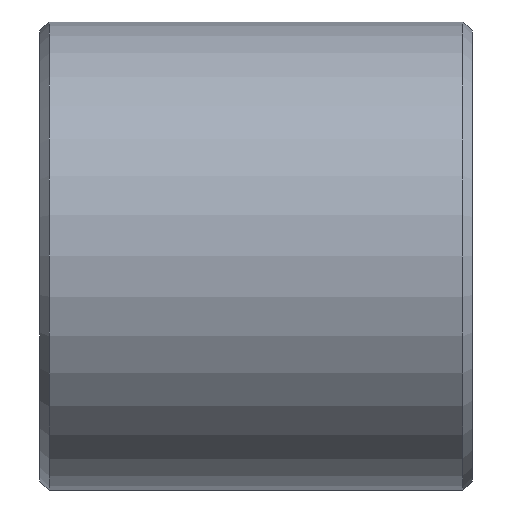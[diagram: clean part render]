
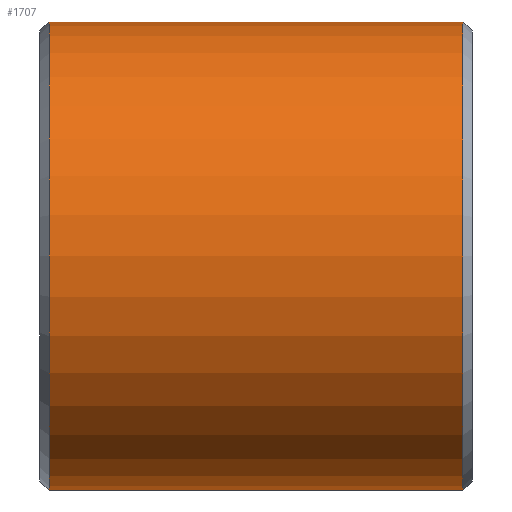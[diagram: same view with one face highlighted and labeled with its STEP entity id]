
A CAD part, front view. The second image highlights one B-rep face of the part: STEP entity #1707.
In plain terms, the highlighted cylindrical face has radius 13 mm (diameter 26 mm), a partial arc.
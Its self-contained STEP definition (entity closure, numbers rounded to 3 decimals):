
#84=DIRECTION('',(1.,0.,0.));
#85=VECTOR('',#84,23.);
#86=CARTESIAN_POINT('',(-11.5,0.,-13.));
#87=LINE('',#86,#85);
#129=CARTESIAN_POINT('',(11.5,0.,0.));
#130=DIRECTION('',(1.,0.,0.));
#131=DIRECTION('',(0.,0.,1.));
#132=AXIS2_PLACEMENT_3D('',#129,#130,#131);
#134=CARTESIAN_POINT('',(-11.5,0.,0.));
#135=DIRECTION('',(-1.,0.,0.));
#136=DIRECTION('',(0.,0.,-1.));
#137=AXIS2_PLACEMENT_3D('',#134,#135,#136);
#139=DIRECTION('',(1.,0.,0.));
#140=VECTOR('',#139,23.);
#141=CARTESIAN_POINT('',(-11.5,0.,
13.));
#142=LINE('',#141,#140);
#1574=CARTESIAN_POINT('',(11.5,0.,13.));
#1575=CARTESIAN_POINT('',(11.5,0.,-13.));
#1576=VERTEX_POINT('',#1574);
#1577=VERTEX_POINT('',#1575);
#1582=CARTESIAN_POINT('',(-11.5,0.,-13.));
#1583=CARTESIAN_POINT('',(-11.5,0.,13.));
#1584=VERTEX_POINT('',#1582);
#1585=VERTEX_POINT('',#1583);
#1696=CARTESIAN_POINT('',(-12.,0.,0.));
#1697=DIRECTION('',(1.,0.,0.));
#1698=DIRECTION('',(0.,0.,-1.));
#1699=AXIS2_PLACEMENT_3D('',#1696,#1697,#1698);
#1700=CYLINDRICAL_SURFACE('',#1699,13.);
#1701=ORIENTED_EDGE('',*,*,#1690,.T.);
#1702=ORIENTED_EDGE('',*,*,#1644,.F.);
#1703=ORIENTED_EDGE('',*,*,#1614,.T.);
#1704=ORIENTED_EDGE('',*,*,#1641,.T.);
#1705=EDGE_LOOP('',(#1701,#1702,#1703,#1704));
#1706=FACE_OUTER_BOUND('',#1705,.F.);
#1707=ADVANCED_FACE('',(#1706),#1700,.T.);
#133=CIRCLE('',#132,13.);
#138=CIRCLE('',#137,13.);
#1614=EDGE_CURVE('',#1584,#1585,#138,.T.);
#1641=EDGE_CURVE('',#1585,#1576,#142,.T.);
#1644=EDGE_CURVE('',#1584,#1577,#87,.T.);
#1690=EDGE_CURVE('',#1576,#1577,#133,.T.);
